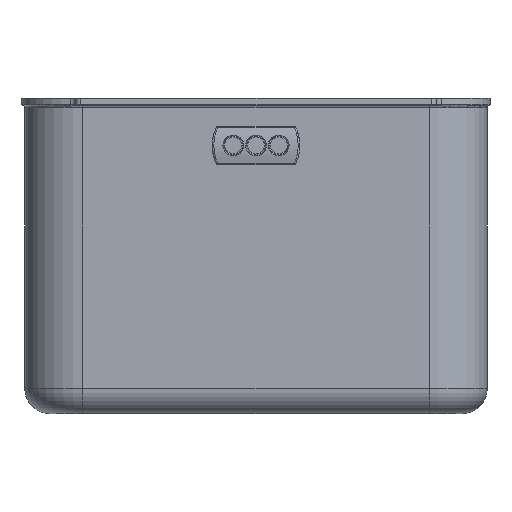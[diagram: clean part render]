
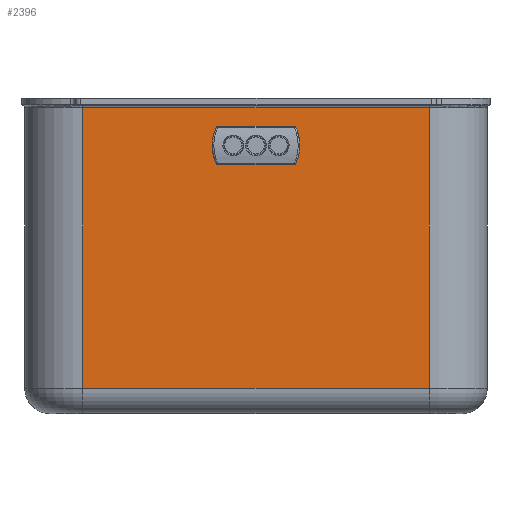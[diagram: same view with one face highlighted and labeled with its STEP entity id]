
A CAD part, left-side view. The second image highlights one B-rep face of the part: STEP entity #2396.
In plain terms, the highlighted planar face has unit normal (-1, 0, 0).
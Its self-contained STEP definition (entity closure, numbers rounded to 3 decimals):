
#1259=CARTESIAN_POINT('',(-49.25,7.194,52.5));
#1260=VERTEX_POINT('',#1259);
#1267=CARTESIAN_POINT('',(-49.25,7.194,45.5));
#1268=VERTEX_POINT('',#1267);
#1269=CARTESIAN_POINT('',(-49.25,0.,49.));
#1270=DIRECTION('',(1.0,0.,0.));
#1271=DIRECTION('',(0.,-0.899,-0.438));
#1272=AXIS2_PLACEMENT_3D('',#1269,#1270,#1271);
#1273=CIRCLE('',#1272,8.);
#1274=EDGE_CURVE('',#1268,#1260,#1273,.T.);
#1293=CARTESIAN_POINT('',(-49.25,-7.194,52.5));
#1294=VERTEX_POINT('',#1293);
#1301=CARTESIAN_POINT('',(-49.25,7.194,52.5));
#1302=DIRECTION('',(0.0,-1.0,0.0));
#1303=VECTOR('',#1302,14.387);
#1304=LINE('',#1301,#1303);
#1305=EDGE_CURVE('',#1260,#1294,#1304,.T.);
#1341=CARTESIAN_POINT('',(-49.25,-7.194,45.5));
#1342=VERTEX_POINT('',#1341);
#1349=CARTESIAN_POINT('',(-49.25,0.,49.));
#1350=DIRECTION('',(1.0,0.,0.));
#1351=DIRECTION('',(0.,0.899,0.438));
#1352=AXIS2_PLACEMENT_3D('',#1349,#1350,#1351);
#1353=CIRCLE('',#1352,8.0);
#1354=EDGE_CURVE('',#1294,#1342,#1353,.T.);
#1367=CARTESIAN_POINT('',(-49.25,-7.194,45.5));
#1368=DIRECTION('',(0.0,1.0,0.0));
#1369=VECTOR('',#1368,14.387);
#1370=LINE('',#1367,#1369);
#1371=EDGE_CURVE('',#1342,#1268,#1370,.T.);
#1612=CARTESIAN_POINT('',(-49.25,31.65,55.9));
#1613=VERTEX_POINT('',#1612);
#1655=CARTESIAN_POINT('',(-49.25,-31.65,55.9));
#1656=VERTEX_POINT('',#1655);
#1673=CARTESIAN_POINT('',(-49.25,31.65,55.9));
#1674=DIRECTION('',(0.0,-1.0,0.0));
#1675=VECTOR('',#1674,63.3);
#1676=LINE('',#1673,#1675);
#1677=EDGE_CURVE('',#1613,#1656,#1676,.T.);
#2113=CARTESIAN_POINT('',(-49.25,-31.65,4.6));
#2114=VERTEX_POINT('',#2113);
#2291=CARTESIAN_POINT('',(-49.25,31.65,4.6));
#2292=VERTEX_POINT('',#2291);
#2331=CARTESIAN_POINT('',(-49.25,-31.65,4.6));
#2332=DIRECTION('',(0.0,1.0,0.0));
#2333=VECTOR('',#2332,63.3);
#2334=LINE('',#2331,#2333);
#2335=EDGE_CURVE('',#2114,#2292,#2334,.T.);
#2365=CARTESIAN_POINT('',(-49.25,31.65,4.6));
#2366=DIRECTION('',(0.0,0.0,1.0));
#2367=VECTOR('',#2366,51.3);
#2368=LINE('',#2365,#2367);
#2369=EDGE_CURVE('',#2292,#1613,#2368,.T.);
#2374=CARTESIAN_POINT('',(-49.25,42.25,0.0));
#2375=DIRECTION('',(-1.0,0.0,0.0));
#2376=DIRECTION('',(0.0,-1.0,0.0));
#2377=AXIS2_PLACEMENT_3D('',#2374,#2375,#2376);
#2378=PLANE('',#2377);
#2379=ORIENTED_EDGE('',*,*,#1677,.F.);
#2380=ORIENTED_EDGE('',*,*,#2369,.F.);
#2381=ORIENTED_EDGE('',*,*,#2335,.F.);
#2382=CARTESIAN_POINT('',(-49.25,-31.65,55.9));
#2383=DIRECTION('',(0.0,0.0,-1.0));
#2384=VECTOR('',#2383,51.3);
#2385=LINE('',#2382,#2384);
#2386=EDGE_CURVE('',#1656,#2114,#2385,.T.);
#2387=ORIENTED_EDGE('',*,*,#2386,.F.);
#2388=EDGE_LOOP('',(#2379,#2380,#2381,#2387));
#2389=FACE_OUTER_BOUND('',#2388,.T.);
#2390=ORIENTED_EDGE('',*,*,#1274,.T.);
#2391=ORIENTED_EDGE('',*,*,#1305,.T.);
#2392=ORIENTED_EDGE('',*,*,#1354,.T.);
#2393=ORIENTED_EDGE('',*,*,#1371,.T.);
#2394=EDGE_LOOP('',(#2390,#2391,#2392,#2393));
#2395=FACE_BOUND('',#2394,.T.);
#2396=ADVANCED_FACE('',(#2389,#2395),#2378,.T.);
